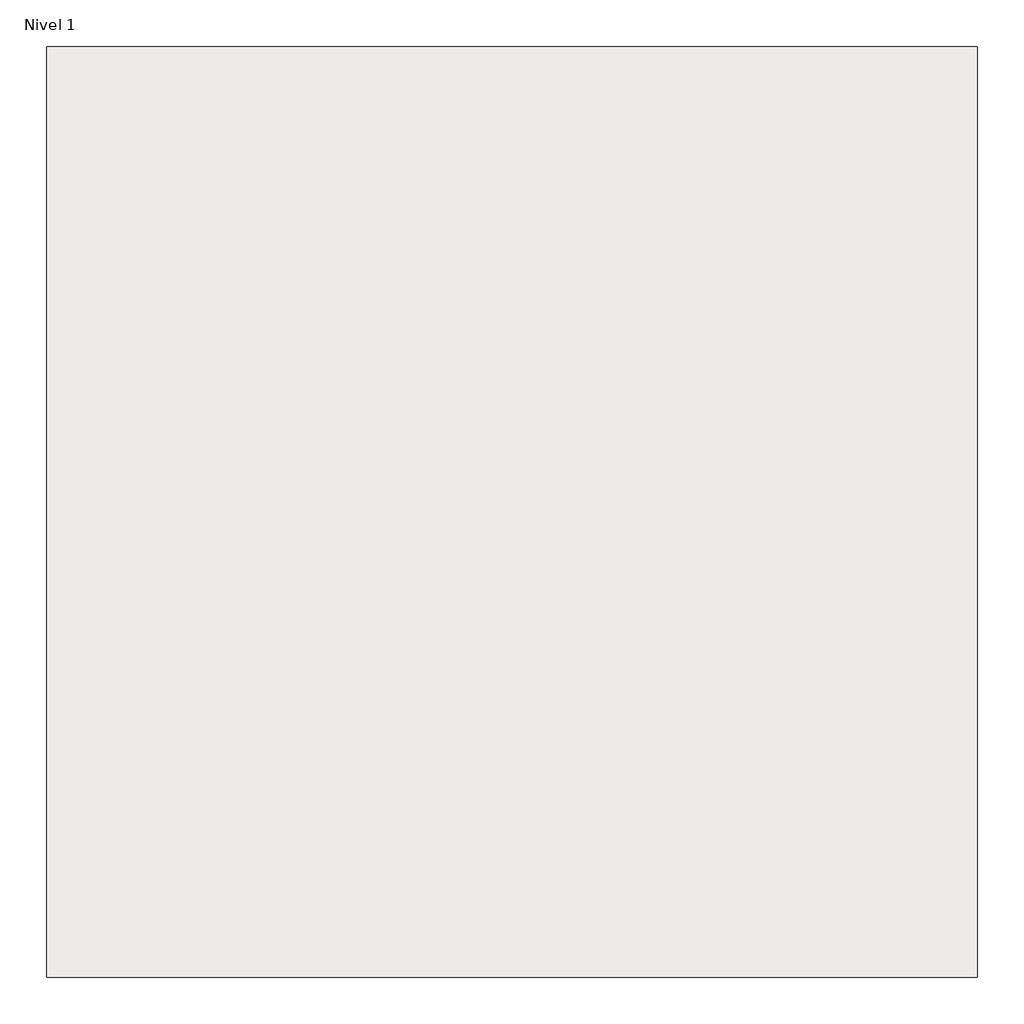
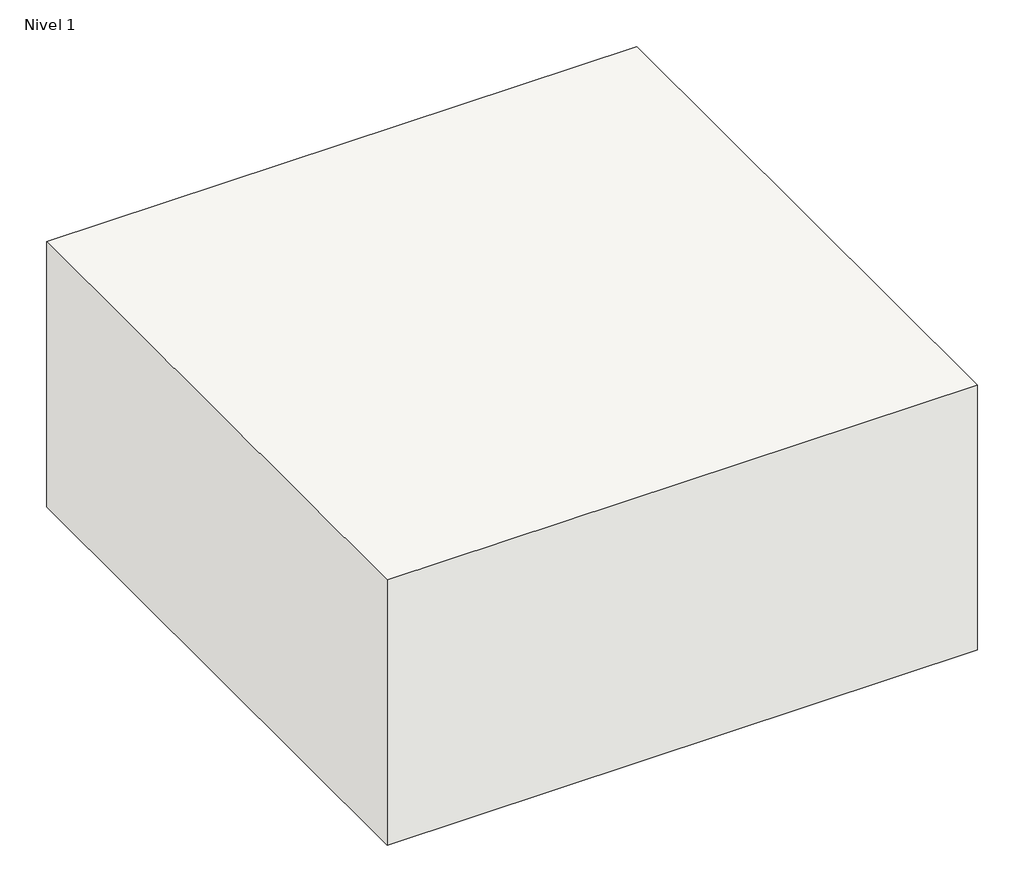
# One storey: 1 roof.
"""IFC4 building model written with IfcOpenShell, lengths in millimetres."""

from ifc_helpers import new_model, si_unit, origin, origin_with_axes, place, context, project, spatial, polyline, outline, extrude, element, save

model = new_model("IFC4")

# Units and contexts
model_context = context("Model", 3, world=origin())
ifc_project = project(units=[si_unit("LENGTHUNIT", "METRE", prefix="MILLI")], contexts=[model_context])

# Site, building, storey
site = spatial("IfcSite", under=ifc_project)
building = spatial("IfcBuilding", under=site)
storey = spatial("IfcBuildingStorey", under=building, Name="Nivel 1", Elevation=0.0)

# Roof
placement = place(None, origin())
element("IfcRoof", 1, ObjectType="Cubierta plana transitable convencional con solado fijo", at=placement, inside=storey, context=model_context, shape_type="SweptSolid", body=[
    extrude(outline(polyline([(-3013.2553136, 4631.8256744), (-3013.2553136, 3631.8256744), (-4013.2553136, 3631.8256744), (-4013.2553136, 4631.8256744), (-3013.2553136, 4631.8256744)])), origin_with_axes(), (0.0, 0.0, 1.0), 475.0),
])

save(model, "model.ifc")
